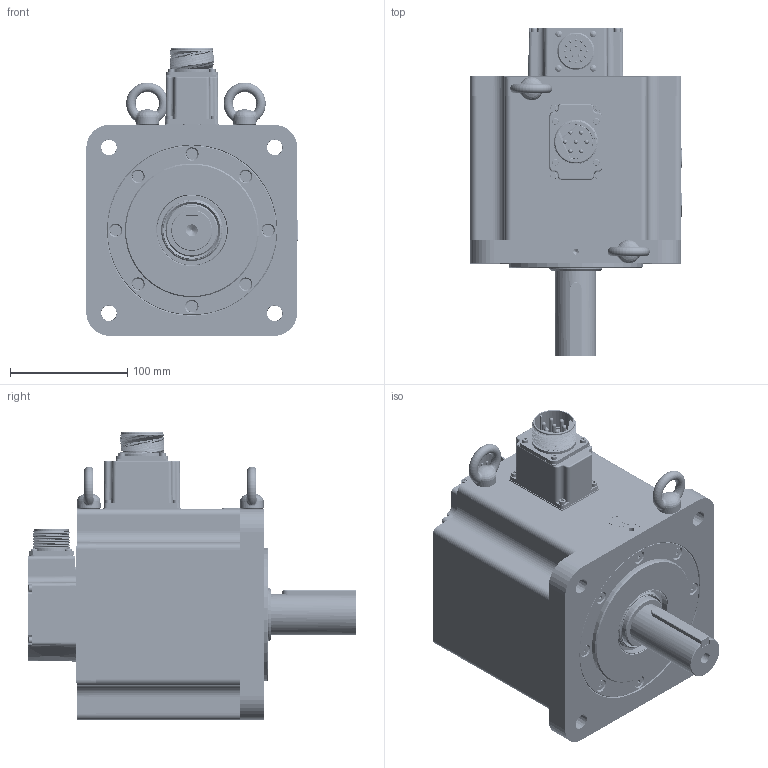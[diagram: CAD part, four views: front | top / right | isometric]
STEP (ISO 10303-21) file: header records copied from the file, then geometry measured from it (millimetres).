
FILE_DESCRIPTION( ( 'Unknown' ), '1' );
FILE_NAME( 'X:/05_Progetto TCE/010-TCE motor drawings/TCE180/vuoti/TCE180 6B XX 3 A2 0 C3.stp', 'Unknown', ( 'Unknown' ), ( 'Unknown' ), 'PSStep 17.0.49', 'Unknown', ' ' );
FILE_SCHEMA( ( 'AUTOMOTIVE_DESIGN { 1 0 10303 214 1 1 1 1 }' ) );
Length unit declared in the file: millimetre
Products named in the file (53): back cover TCE100 + CN MIL; 003303000373; 003108015154; 005911000525; 005911000525-oa3; 005911000525-oa4; 005911000525-oa5; 001107000620; U5180002_vuoto; 003303000370; cap-M3 nudo; 003799000581; 003303000372; 003120002507; 007117001752; 005911000190; 005911000201; Assem1; 005204000001; 005204000003; 005204000002; 005113001070; 005119001104; 005123001110; 005911000216; 005911000006; 005008000664-oa0; 005008000690-oa1; 005008000953-oa2; 005911000493; 003103001503; 005123001580; 003251022004; 005911000479; 005321000010; 003251022003; 003003050007
Assembly tree (80 placements, depth 3):
  Assem1
    005204000001
    005204000003
    005204000002
    005113001070
    005119001104
    005119001104
    005123001110
    005123001110
    005123001110
    005123001110
    005123001110
    005123001110
    005123001110
    005123001110
    005911000216  x4
    005911000006  x8
    005008000664-oa0
    005008000690-oa1
    005008000953-oa2
    005911000493  x4
    003103001503
    005123001580
    005123001580
    005123001580
    005123001580
    005123001580
    005123001580
    005123001580
    005123001580
    003251022004
    005911000479  x8
    005321000010  x2
    003251022003
    003003050007
    back cover TCE100 + CN MIL
      003303000373
      003108015154
      005911000525
      005911000525-oa3
      005911000525-oa4
      005911000525-oa5
      001107000620
    U5180002_vuoto
      003303000370
      cap-M3 nudo
      003799000581
      003303000372
      003120002507
      003120002507
      007117001752
      005911000190
      005911000201  x8
Bounding box: 180.3 x 280 x 245.3 mm (x, y, z)
Volume: 2617962.5 mm3; surface area: 642455.3 mm2
Topology: 78 solids, 85 shells, 2802 faces, 6878 edges, 4405 vertices
Faces by surface type: plane 1361, cylinder 687, cone 221, bspline 186, torus 175, extrusion 88, sphere 82, revolution 2
Full cylindrical faces by diameter (mm): 1.423 x1, 1.523 x1, 2 x34, 2.163 x1, 2.459 x21, 2.5 x1, 2.6 x1, 2.9 x4, 3 x30, 3.048 x4, 3.2 x1, 3.242 x6, 3.5 x11, 3.6 x7, 3.7 x4, 4 x9, 4.134 x24, 4.4 x15, 4.7 x8, 4.917 x2, 5 x16, 5.3 x1, 5.5 x14, 5.6 x4, 6 x7, 6.6 x6, 6.647 x22, 7 x8, 7.2 x1, 8 x17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
Entity records: 115557 total; most frequent: CARTESIAN_POINT 44023, DIRECTION 10554, ORIENTED_EDGE 10146, EDGE_CURVE 5073, AXIS2_PLACEMENT_3D 3934, VERTEX_POINT 3630, EDGE_LOOP 3288, FACE_OUTER_BOUND 2755
